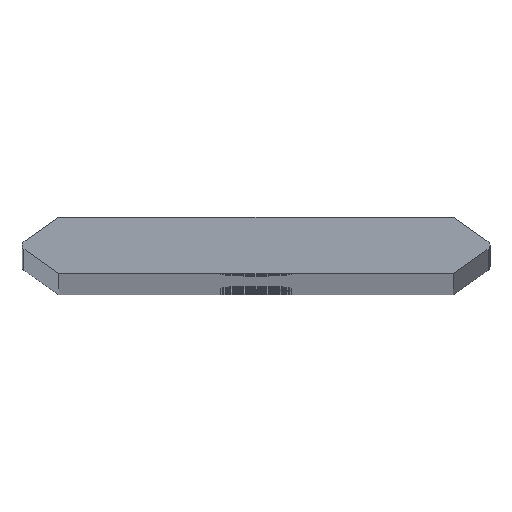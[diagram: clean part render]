
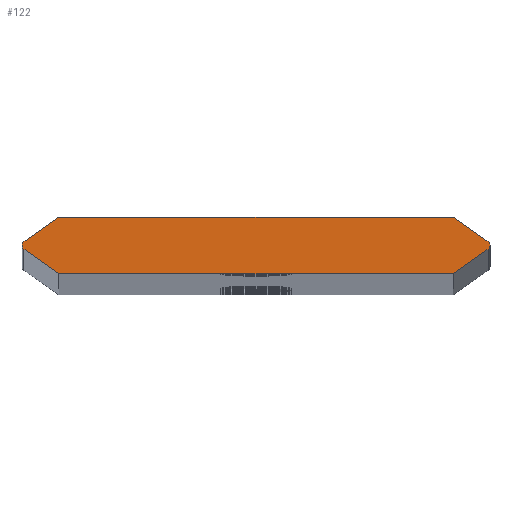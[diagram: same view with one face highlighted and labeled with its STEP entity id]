
A CAD part, top view. The second image highlights one B-rep face of the part: STEP entity #122.
In plain terms, the highlighted planar face has unit normal (0, 0, 1).
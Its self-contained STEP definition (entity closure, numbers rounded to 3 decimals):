
#122=ADVANCED_FACE('',(#226),#227,.T.);
#226=FACE_OUTER_BOUND('',#382,.T.);
#227=PLANE('',#383);
#382=EDGE_LOOP('',(#773,#774,#775,#776,#777,#778,#779,#780,#781,#782));
#383=AXIS2_PLACEMENT_3D('',#783,#784,#785);
#773=ORIENTED_EDGE('',*,*,#941,.T.);
#774=ORIENTED_EDGE('',*,*,#1078,.T.);
#775=ORIENTED_EDGE('',*,*,#1079,.F.);
#776=ORIENTED_EDGE('',*,*,#1080,.F.);
#777=ORIENTED_EDGE('',*,*,#1081,.F.);
#778=ORIENTED_EDGE('',*,*,#937,.T.);
#779=ORIENTED_EDGE('',*,*,#1082,.T.);
#780=ORIENTED_EDGE('',*,*,#1083,.F.);
#781=ORIENTED_EDGE('',*,*,#1084,.F.);
#782=ORIENTED_EDGE('',*,*,#1085,.F.);
#783=CARTESIAN_POINT('',(0.,0.,1976.0));
#784=DIRECTION('',(0.0,0.0,1.0));
#785=DIRECTION('',(1.0,0.0,0.0));
#937=EDGE_CURVE('',#1101,#1098,#1102,.T.);
#941=EDGE_CURVE('',#1109,#1106,#1110,.T.);
#1078=EDGE_CURVE('',#1106,#1336,#1338,.T.);
#1079=EDGE_CURVE('',#1339,#1336,#1340,.T.);
#1080=EDGE_CURVE('',#1341,#1339,#1342,.T.);
#1081=EDGE_CURVE('',#1101,#1341,#1343,.T.);
#1082=EDGE_CURVE('',#1098,#1344,#1345,.T.);
#1083=EDGE_CURVE('',#1346,#1344,#1347,.T.);
#1084=EDGE_CURVE('',#1348,#1346,#1349,.T.);
#1085=EDGE_CURVE('',#1109,#1348,#1350,.T.);
#1098=VERTEX_POINT('',#1368);
#1101=VERTEX_POINT('',#1372);
#1102=CIRCLE('',#1373,0.76);
#1106=VERTEX_POINT('',#1378);
#1109=VERTEX_POINT('',#1382);
#1110=CIRCLE('',#1383,0.76);
#1336=VERTEX_POINT('',#1654);
#1338=CIRCLE('',#1657,0.76);
#1339=VERTEX_POINT('',#1658);
#1340=LINE('',#1659,#1660);
#1341=VERTEX_POINT('',#1661);
#1342=LINE('',#1662,#1663);
#1343=LINE('',#1664,#1665);
#1344=VERTEX_POINT('',#1666);
#1345=CIRCLE('',#1667,0.76);
#1346=VERTEX_POINT('',#1668);
#1347=LINE('',#1669,#1670);
#1348=VERTEX_POINT('',#1671);
#1349=LINE('',#1672,#1673);
#1350=LINE('',#1674,#1675);
#1368=CARTESIAN_POINT('',(37.84,0.,1976.0));
#1372=CARTESIAN_POINT('',(37.519,-0.62,1976.0));
#1373=AXIS2_PLACEMENT_3D('',#1705,#1706,#1707);
#1378=CARTESIAN_POINT('',(-37.84,0.,1976.0));
#1382=CARTESIAN_POINT('',(-37.519,0.62,1976.0));
#1383=AXIS2_PLACEMENT_3D('',#1713,#1714,#1715);
#1654=CARTESIAN_POINT('',(-37.519,-0.62,1976.0));
#1657=AXIS2_PLACEMENT_3D('',#2032,#2033,#2034);
#1658=CARTESIAN_POINT('',(-31.893,-4.56,1976.0));
#1659=CARTESIAN_POINT('',(-38.405,0.,1976.0));
#1660=VECTOR('',#2035,1.0);
#1661=CARTESIAN_POINT('',(31.893,-4.56,1976.0));
#1662=CARTESIAN_POINT('',(31.893,-4.56,1976.0));
#1663=VECTOR('',#2036,1.0);
#1664=CARTESIAN_POINT('',(38.405,0.0,1976.0));
#1665=VECTOR('',#2037,1.0);
#1666=CARTESIAN_POINT('',(37.519,0.62,1976.0));
#1667=AXIS2_PLACEMENT_3D('',#2038,#2039,#2040);
#1668=CARTESIAN_POINT('',(31.893,4.56,1976.0));
#1669=CARTESIAN_POINT('',(38.405,0.0,1976.0));
#1670=VECTOR('',#2041,1.0);
#1671=CARTESIAN_POINT('',(-31.893,4.56,1976.0));
#1672=CARTESIAN_POINT('',(-31.893,4.56,1976.0));
#1673=VECTOR('',#2042,1.0);
#1674=CARTESIAN_POINT('',(-38.405,0.,1976.0));
#1675=VECTOR('',#2043,1.0);
#1705=CARTESIAN_POINT('',(37.08,0.0,1976.0));
#1706=DIRECTION('',(0.0,0.0,1.0));
#1707=DIRECTION('',(1.0,0.0,0.0));
#1713=CARTESIAN_POINT('',(-37.08,0.,1976.0));
#1714=DIRECTION('',(0.0,0.0,1.0));
#1715=DIRECTION('',(-1.0,0.,0.0));
#2032=CARTESIAN_POINT('',(-37.08,0.,1976.0));
#2033=DIRECTION('',(0.0,0.0,1.0));
#2034=DIRECTION('',(-1.0,0.,0.0));
#2035=DIRECTION('',(-0.819,0.574,0.0));
#2036=DIRECTION('',(-1.0,0.0,0.0));
#2037=DIRECTION('',(-0.819,-0.574,0.0));
#2038=CARTESIAN_POINT('',(37.08,0.0,1976.0));
#2039=DIRECTION('',(0.0,0.0,1.0));
#2040=DIRECTION('',(1.0,0.0,0.0));
#2041=DIRECTION('',(0.819,-0.574,0.0));
#2042=DIRECTION('',(1.0,0.,0.0));
#2043=DIRECTION('',(0.819,0.574,0.0));
